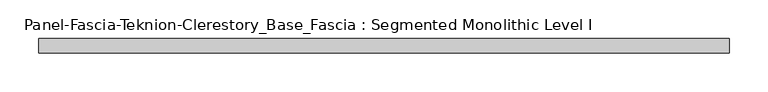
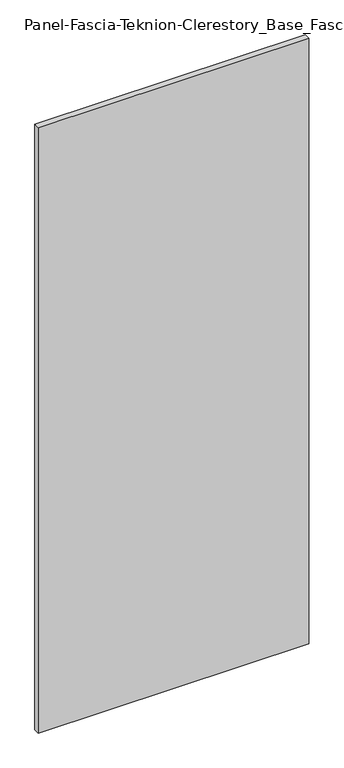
"""IFC4 building model written with IfcOpenShell, lengths in millimetres: proxy geometry, Panel-Fascia-Teknion-Clerestory_Base_Fascia : Segmented Monolithic Level I."""

import ifcopenshell
import ifcopenshell.guid

model = None  # the IFC model being written
_history = None  # IfcOwnerHistory: only IFC2X3 demands one
_inside = {}  # id of a spatial element -> (the spatial element, [elements in it])
_under = {}  # id of a project, library or spatial element -> (it, [spatial elements below it])
_declared = {}  # id of a project -> (the project, [libraries it declares])
_typed = {}  # id of a type object -> (the type object, [elements of that type])
_made_of = {}  # id of a material, layer set ... -> (it, [elements and type objects made of it])


def new_model(schema):
    """Start an empty IFC model of exactly this schema.

    Asked for "IFC4X3", IfcOpenShell would pick the latest addendum, in which some entities
    have other attributes; the version numbers below select the first issue.
    IFC2X3 requires an IfcOwnerHistory on every rooted entity: one is made here for all.
    """
    global model, _history
    if schema == "IFC4X3":
        model = ifcopenshell.file(schema_version=(4, 3, 0, 0))
    else:
        model = ifcopenshell.file(schema=schema)
    _inside.clear()
    _under.clear()
    _declared.clear()
    _typed.clear()
    _made_of.clear()
    _history = None
    if model.schema == "IFC2X3":
        org = make("IfcOrganization", Name="unknown")
        user = make(
            "IfcPersonAndOrganization",
            ThePerson=make("IfcPerson", FamilyName="unknown"),
            TheOrganization=org,
        )
        app = make(
            "IfcApplication",
            ApplicationDeveloper=org,
            Version="unknown",
            ApplicationFullName="unknown",
            ApplicationIdentifier="unknown",
        )
        _history = make(
            "IfcOwnerHistory",
            OwningUser=user,
            OwningApplication=app,
            ChangeAction="ADDED",
            CreationDate=0,
        )
    return model


def make(cls, **values):
    """One entity of the class cls with the attributes given. An attribute that is None is left unset."""
    return model.create_entity(
        cls, **{name: value for name, value in values.items() if value is not None}
    )


def rooted(cls, **values):
    """An entity with a GlobalId (a new one), such as an element, a storey or a relation."""
    return make(cls, GlobalId=ifcopenshell.guid.new(), OwnerHistory=_history, **values)


def si_unit(unit_type, name, prefix=None):
    """IfcSIUnit, for example si_unit("LENGTHUNIT", "METRE", prefix="MILLI")."""
    return make("IfcSIUnit", UnitType=unit_type, Prefix=prefix, Name=name)


def assignment(units):
    """IfcUnitAssignment: the units of a project."""
    return None if units is None else make("IfcUnitAssignment", Units=units)


def point(xyz):
    """IfcCartesianPoint."""
    return None if xyz is None else make("IfcCartesianPoint", Coordinates=xyz)


def direction(xyz):
    """IfcDirection."""
    return None if xyz is None else make("IfcDirection", DirectionRatios=xyz)


def frame(location, z_axis=None, x_axis=None):
    """IfcAxis2Placement3D, a coordinate frame: its origin and axes. An axis left out is left unset."""
    return make(
        "IfcAxis2Placement3D",
        Location=point(location),
        Axis=direction(z_axis),
        RefDirection=direction(x_axis),
    )


def origin():
    """The frame at (0, 0, 0) with its axes left unset."""
    return frame((0.0, 0.0, 0.0))


def place(relative_to, where):
    """IfcLocalPlacement: puts the frame where relative to a parent placement (None: the world)."""
    return make(
        "IfcLocalPlacement", PlacementRelTo=relative_to, RelativePlacement=where
    )


def context(
    kind, dimensions, precision=None, world=None, true_north=None, identifier=None
):
    """IfcGeometricRepresentationContext, for example the 3D "Model" context."""
    return make(
        "IfcGeometricRepresentationContext",
        ContextIdentifier=identifier,
        ContextType=kind,
        CoordinateSpaceDimension=dimensions,
        Precision=precision,
        WorldCoordinateSystem=world,
        TrueNorth=true_north,
    )


def project(units=None, contexts=None):
    """IfcProject with its units and contexts."""
    return rooted(
        "IfcProject",
        Name="project",
        RepresentationContexts=contexts,
        UnitsInContext=assignment(units),
    )


def spatial(cls, under=None, at=None, **own):
    """A site, building, storey or space (cls), placed at a placement, below another one or the project."""
    s = rooted(cls, ObjectPlacement=at, **own)
    if under is not None:
        _under.setdefault(under.id(), (under, []))[1].append(s)
    return s


def polyline(points):
    """IfcPolyline through the points."""
    return make("IfcPolyline", Points=[point(p) for p in points])


def outline(outer, holes=None, kind="AREA"):
    """IfcArbitraryClosedProfileDef: a profile drawn as a closed curve; with holes, ...WithVoids."""
    if holes is None:
        return make("IfcArbitraryClosedProfileDef", ProfileType=kind, OuterCurve=outer)
    return make(
        "IfcArbitraryProfileDefWithVoids",
        ProfileType=kind,
        OuterCurve=outer,
        InnerCurves=holes,
    )


def extrude(swept, where, along, depth):
    """IfcExtrudedAreaSolid: the profile swept, set in the frame where, extruded along a direction by depth."""
    return make(
        "IfcExtrudedAreaSolid",
        SweptArea=swept,
        Position=where,
        ExtrudedDirection=direction(along),
        Depth=depth,
    )


def shape(context_of_items, identifier, shape_type, items):
    """IfcShapeRepresentation: the items that make up one representation, for example the "Body"."""
    return make(
        "IfcShapeRepresentation",
        ContextOfItems=context_of_items,
        RepresentationIdentifier=identifier,
        RepresentationType=shape_type,
        Items=items,
    )


def source(mapping_origin, context_of_items, identifier, shape_type, items):
    """IfcRepresentationMap: a shape defined once, which mapped items show again and again."""
    return make(
        "IfcRepresentationMap",
        MappingOrigin=mapping_origin,
        MappedRepresentation=shape(context_of_items, identifier, shape_type, items),
    )


def transform(
    local_origin,
    x_axis=None,
    y_axis=None,
    z_axis=None,
    scale=None,
    scale2=None,
    scale3=None,
    uniform=True,
):
    """IfcCartesianTransformationOperator3D, or its non-uniform kind. x_axis, y_axis, z_axis: its Axis1, 2, 3."""
    if uniform:
        return make(
            "IfcCartesianTransformationOperator3D",
            Axis1=direction(x_axis),
            Axis2=direction(y_axis),
            LocalOrigin=point(local_origin),
            Scale=scale,
            Axis3=direction(z_axis),
        )
    return make(
        "IfcCartesianTransformationOperator3DnonUniform",
        Axis1=direction(x_axis),
        Axis2=direction(y_axis),
        LocalOrigin=point(local_origin),
        Scale=scale,
        Axis3=direction(z_axis),
        Scale2=scale2,
        Scale3=scale3,
    )


def mapped(mapping_source, mapping_target):
    """IfcMappedItem: shows the shape of a source again, moved by a transform."""
    return make(
        "IfcMappedItem", MappingSource=mapping_source, MappingTarget=mapping_target
    )


def made_of(thing, what):
    """Note that an element or type object is made of a material, layer set ...; save() writes the relation."""
    if what is not None:
        _made_of.setdefault(what.id(), (what, []))[1].append(thing)
    return thing


def element(
    cls,
    number,
    at=None,
    inside=None,
    cuts=None,
    type_object=None,
    material=None,
    context=None,
    identifier="Body",
    shape_type=None,
    held_by="IfcProductDefinitionShape",
    body=None,
    shapes=None,
    **own,
):
    """One element of the class cls, such as IfcWall. Its Tag is "e" and its number.

    at: its placement. inside: the storey or other place that contains it. cuts: it is an
    opening in that element (IfcRelVoidsElement). A single representation is given by context,
    identifier, shape_type and body (its items); several are given by shapes. held_by: the class
    of the entity that holds the representations. save() writes the other relations.
    """
    e = rooted(cls, Tag="e%d" % number, ObjectPlacement=at, **own)
    if body is not None:
        shapes = [shape(context, identifier, shape_type, body)]
    if shapes is not None:
        e.Representation = make(held_by, Representations=shapes)
    if inside is not None:
        _inside.setdefault(inside.id(), (inside, []))[1].append(e)
    if cuts is not None:
        rooted(
            "IfcRelVoidsElement", RelatingBuildingElement=cuts, RelatedOpeningElement=e
        )
    if type_object is not None:
        _typed.setdefault(type_object.id(), (type_object, []))[1].append(e)
    return made_of(e, material)


def aggregate(whole, parts):
    """IfcRelAggregates: a whole, such as a stair, and the parts it consists of."""
    return rooted("IfcRelAggregates", RelatingObject=whole, RelatedObjects=parts)


def save(model, path):
    """Write the relations noted so far, then the file.

    IfcRelAggregates (storeys below a building ...), IfcRelContainedInSpatialStructure (elements
    in a storey), IfcRelDefinesByType, IfcRelAssociatesMaterial and IfcRelDeclares: one each for
    every whole, place, type object, material and project.
    """
    for whole, parts in _under.values():
        aggregate(whole, parts)
    for where, things in _inside.values():
        rooted(
            "IfcRelContainedInSpatialStructure",
            RelatedElements=things,
            RelatingStructure=where,
        )
    for kind, things in _typed.values():
        rooted("IfcRelDefinesByType", RelatedObjects=things, RelatingType=kind)
    for what, things in _made_of.values():
        rooted("IfcRelAssociatesMaterial", RelatedObjects=things, RelatingMaterial=what)
    for by, libraries in _declared.values():
        rooted("IfcRelDeclares", RelatingContext=by, RelatedDefinitions=libraries)
    model.write(path)


def panel_fascia_teknion_clerestory_base_fascia_segmented_136e7ca1(model_context):
    return source(origin(), model_context, "Body", "SweptSolid", [
        extrude(outline(polyline([(447.6198344, 9.525), (447.6198344, -9.525), (-447.6198344, -9.525), (-447.6198344, 9.525), (447.6198344, 9.525)])), frame((0.0, 0.0, 3.175), z_axis=(0.0, 0.0, 1.0), x_axis=(1.0, 0.0, 0.0)), (0.0, 0.0, 1.0), 2117.725),
    ])


if __name__ == "__main__":
    model = new_model("IFC4")
    model_context = context("Model", 3, world=origin())
    ifc_project = project(units=[si_unit("LENGTHUNIT", "METRE", prefix="MILLI")], contexts=[model_context])
    site = spatial("IfcSite", under=ifc_project)
    building = spatial("IfcBuilding", under=site)
    placement = place(None, origin())
    panel_fascia_teknion_clerestory_base_fascia_segmented_shape = panel_fascia_teknion_clerestory_base_fascia_segmented_136e7ca1(model_context)
    element("IfcBuildingElementProxy", 1, Name="Panel-Fascia-Teknion-Clerestory_Base_Fascia : Segmented Monolithic Level I", ObjectType="Panel-Fascia-Teknion-Clerestory_Base_Fascia : Segmented Monolithic Level I", at=placement, inside=building, context=model_context, shape_type="MappedRepresentation", body=[
        mapped(panel_fascia_teknion_clerestory_base_fascia_segmented_shape, transform((0.0, 0.0, 0.0), x_axis=(1.0, 0.0, 0.0), y_axis=(0.0, 1.0, 0.0), z_axis=(0.0, 0.0, 1.0))),
    ])
    save(model, "model.ifc")
